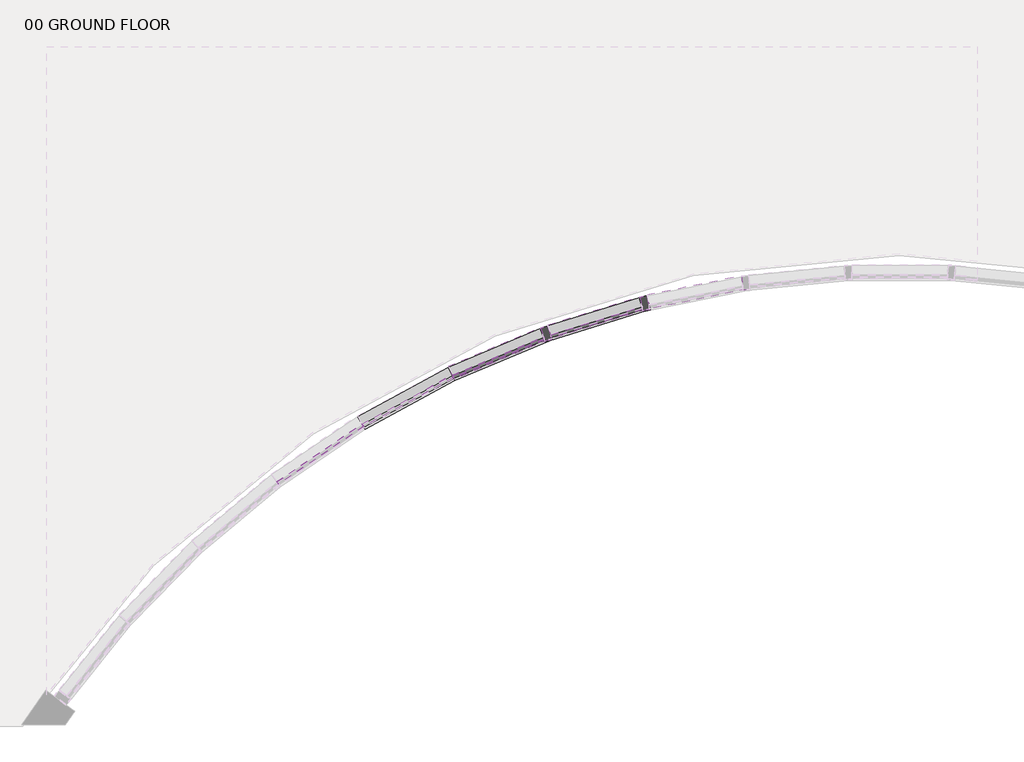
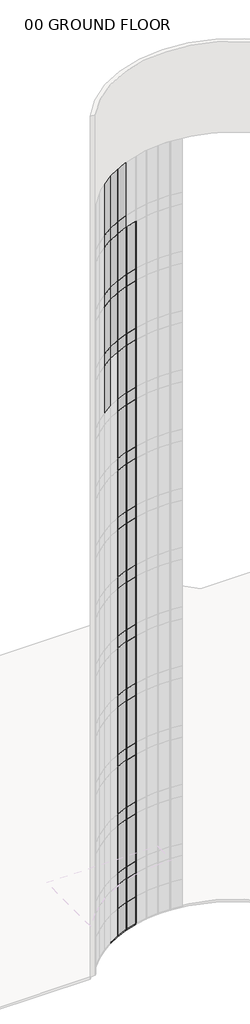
# One storey, part 6 of 33: 63 plates, 52 members.
"""IFC4 building model written with IfcOpenShell, lengths in millimetres."""

from ifc_helpers import new_model, si_unit, origin, place, context, project, spatial, transform, mapped, element, save
from components import member_ab6b85c2, member_a499538e, member_7cbddb58, member_92b69a95, member_bc59259d, member_d60e8053, member_410c6227, member_810865a4, system_panel_su_blue_992d2dbe, system_panel_su_blue_02b3fa8e, system_panel_su_blue_f02faf6b, system_panel_su_blue_aa8bdef1, system_panel_su_blue_144861c6, system_panel_su_blue_e9da5e1a, system_panel_su_blue_a8d80527, system_panel_su_blue_654c3fe2, system_panel_su_blue_7566f74c, system_panel_su_blue_cfd944bc, system_panel_su_blue_e3caad35, system_panel_su_blue_95bb2abf

model = new_model("IFC4")

# Units and contexts
model_context = context("Model", 3, world=origin())
ifc_project = project(units=[si_unit("LENGTHUNIT", "METRE", prefix="MILLI")], contexts=[model_context])

# Site, building, storey
site = spatial("IfcSite", under=ifc_project)
building = spatial("IfcBuilding", under=site)
storey = spatial("IfcBuildingStorey", under=building, Name="00 GROUND FLOOR", Elevation=0.0)

# Members
placement = place(None, origin())
member_shape = member_ab6b85c2(model_context)
element("IfcMember", 1, ObjectType="Rectangular Mullion : 2.5\" x 5\" rectangular", at=placement, inside=storey, context=model_context, shape_type="MappedRepresentation", body=[
    mapped(member_shape, transform((12908.43233, 3818.9388564, 59436.0), x_axis=(0.0, 0.0, 1.0), y_axis=(-0.19774153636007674, 0.980254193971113, 0.0), z_axis=(-0.9802541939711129, -0.19774153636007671, 0.0))),
])
element("IfcMember", 2, ObjectType="Rectangular Mullion : 2.5\" x 5\" rectangular", at=placement, inside=storey, context=model_context, shape_type="MappedRepresentation", body=[
    mapped(member_shape, transform((12052.9998875, 3558.9536304, 59436.0), x_axis=(0.0, 0.0, 1.0), y_axis=(-0.29416346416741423, 0.9557551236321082, 0.0), z_axis=(-0.9557551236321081, -0.2941634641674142, 0.0))),
])
element("IfcMember", 3, ObjectType="Rectangular Mullion : 2.5\" x 5\" rectangular", at=placement, inside=storey, context=model_context, shape_type="MappedRepresentation", body=[
    mapped(member_shape, transform((12846.9640341, 3803.3208726, 0.0), x_axis=(0.0, 0.0, -1.0), y_axis=(-0.2941634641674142, 0.9557551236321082, 0.0), z_axis=(0.9557551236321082, 0.2941634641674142, 0.0))),
])
member_2_shape = member_a499538e(model_context)
element("IfcMember", 4, ObjectType="Rectangular Mullion : 2.5\" x 5\" rectangular", at=placement, inside=storey, context=model_context, shape_type="MappedRepresentation", body=[
    mapped(member_2_shape, transform((11993.3876212, 3537.3052928, 0.0), x_axis=(0.0, 0.0, -1.0), y_axis=(-0.3876739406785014, 0.9217965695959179, 0.0), z_axis=(0.9217965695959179, 0.3876739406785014, 0.0))),
])
member_3_shape = member_7cbddb58(model_context)
element("IfcMember", 5, ObjectType="Rectangular Mullion : 2.5\" x 5\" rectangular", at=placement, inside=storey, context=model_context, shape_type="MappedRepresentation", body=[
    mapped(member_3_shape, transform((12877.3092593, 3812.6605626, 0.0), x_axis=(-0.9692044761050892, -0.2462573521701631, 0.0), y_axis=(-0.2462573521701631, 0.9692044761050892, 0.0), z_axis=(0.0, 0.0, -1.0))),
])
element("IfcMember", 6, ObjectType="Rectangular Mullion : 2.5\" x 5\" rectangular", at=placement, inside=storey, context=model_context, shape_type="MappedRepresentation", body=[
    mapped(member_3_shape, transform((12022.6546623, 3549.6139404, 0.0), x_axis=(-0.9399394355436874, -0.3413412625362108, 0.0), y_axis=(-0.3413412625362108, 0.9399394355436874, 0.0), z_axis=(0.0, 0.0, -1.0))),
])
member_4_shape = member_92b69a95(model_context)
element("IfcMember", 7, ObjectType="Rectangular Mullion : 2.5\" x 5\" rectangular", at=placement, inside=storey, context=model_context, shape_type="MappedRepresentation", body=[
    mapped(member_4_shape, transform((11198.3664568, 3202.9484533, 59436.0), x_axis=(0.0, 0.0, 1.0), y_axis=(-0.38767394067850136, 0.9217965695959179, 0.0), z_axis=(-0.9217965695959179, -0.38767394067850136, 0.0))),
])
member_5_shape = member_bc59259d(model_context)
element("IfcMember", 8, ObjectType="Rectangular Mullion : 2.5\" x 5\" rectangular", at=placement, inside=storey, context=model_context, shape_type="MappedRepresentation", body=[
    mapped(member_5_shape, transform((11198.3664568, 3202.9484533, 0.0), x_axis=(0.0, 0.0, -1.0), y_axis=(-0.4773474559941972, 0.8787146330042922, 0.0), z_axis=(0.8787146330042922, 0.4773474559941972, 0.0))),
])
member_6_shape = member_d60e8053(model_context)
element("IfcMember", 9, ObjectType="Rectangular Mullion : 2.5\" x 5\" rectangular", at=placement, inside=storey, context=model_context, shape_type="MappedRepresentation", body=[
    mapped(member_6_shape, transform((12877.3092593, 3812.6605626, 2133.6), x_axis=(-0.9692044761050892, -0.2462573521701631, 0.0), y_axis=(-0.2462573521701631, 0.9692044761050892, 0.0), z_axis=(0.0, 0.0, -1.0))),
])
element("IfcMember", 10, ObjectType="Rectangular Mullion : 2.5\" x 5\" rectangular", at=placement, inside=storey, context=model_context, shape_type="MappedRepresentation", body=[
    mapped(member_6_shape, transform((12022.6546623, 3549.6139404, 2133.6), x_axis=(-0.9399394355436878, -0.34134126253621, 0.0), y_axis=(-0.34134126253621, 0.9399394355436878, 0.0), z_axis=(0.0, 0.0, -1.0))),
])
member_7_shape = member_410c6227(model_context)
element("IfcMember", 11, ObjectType="Rectangular Mullion : 2.5\" x 5\" rectangular", at=placement, inside=storey, context=model_context, shape_type="MappedRepresentation", body=[
    mapped(member_7_shape, transform((12877.3092593, 3812.6605626, 3962.4), x_axis=(-0.9692044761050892, -0.2462573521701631, 0.0), y_axis=(-0.2462573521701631, 0.9692044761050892, 0.0), z_axis=(0.0, 0.0, -1.0))),
])
element("IfcMember", 12, ObjectType="Rectangular Mullion : 2.5\" x 5\" rectangular", at=placement, inside=storey, context=model_context, shape_type="MappedRepresentation", body=[
    mapped(member_7_shape, transform((12022.6546623, 3549.6139404, 3962.4), x_axis=(-0.939939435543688, -0.3413412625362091, 0.0), y_axis=(-0.3413412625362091, 0.939939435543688, 0.0), z_axis=(0.0, 0.0, -1.0))),
])
element("IfcMember", 13, ObjectType="Rectangular Mullion : 2.5\" x 5\" rectangular", at=placement, inside=storey, context=model_context, shape_type="MappedRepresentation", body=[
    mapped(member_7_shape, transform((12877.3092593, 3812.6605626, 8534.4), x_axis=(-0.9692044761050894, -0.24625735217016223, 0.0), y_axis=(-0.24625735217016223, 0.9692044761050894, 0.0), z_axis=(0.0, 0.0, -1.0))),
])
element("IfcMember", 14, ObjectType="Rectangular Mullion : 2.5\" x 5\" rectangular", at=placement, inside=storey, context=model_context, shape_type="MappedRepresentation", body=[
    mapped(member_7_shape, transform((12022.6546623, 3549.6139404, 8534.4), x_axis=(-0.939939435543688, -0.3413412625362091, 0.0), y_axis=(-0.3413412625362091, 0.939939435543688, 0.0), z_axis=(0.0, 0.0, -1.0))),
])
element("IfcMember", 15, ObjectType="Rectangular Mullion : 2.5\" x 5\" rectangular", at=placement, inside=storey, context=model_context, shape_type="MappedRepresentation", body=[
    mapped(member_7_shape, transform((12877.3092593, 3812.6605626, 13106.4), x_axis=(-0.9692044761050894, -0.24625735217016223, 0.0), y_axis=(-0.24625735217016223, 0.9692044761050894, 0.0), z_axis=(0.0, 0.0, -1.0))),
])
element("IfcMember", 16, ObjectType="Rectangular Mullion : 2.5\" x 5\" rectangular", at=placement, inside=storey, context=model_context, shape_type="MappedRepresentation", body=[
    mapped(member_7_shape, transform((12022.6546623, 3549.6139404, 13106.4), x_axis=(-0.9399394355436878, -0.34134126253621, 0.0), y_axis=(-0.34134126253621, 0.9399394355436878, 0.0), z_axis=(0.0, 0.0, -1.0))),
])
element("IfcMember", 17, ObjectType="Rectangular Mullion : 2.5\" x 5\" rectangular", at=placement, inside=storey, context=model_context, shape_type="MappedRepresentation", body=[
    mapped(member_7_shape, transform((12877.3092593, 3812.6605626, 17678.4), x_axis=(-0.9692044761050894, -0.24625735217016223, 0.0), y_axis=(-0.24625735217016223, 0.9692044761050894, 0.0), z_axis=(0.0, 0.0, -1.0))),
])
element("IfcMember", 18, ObjectType="Rectangular Mullion : 2.5\" x 5\" rectangular", at=placement, inside=storey, context=model_context, shape_type="MappedRepresentation", body=[
    mapped(member_7_shape, transform((12022.6546623, 3549.6139404, 17678.4), x_axis=(-0.9399394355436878, -0.34134126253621, 0.0), y_axis=(-0.34134126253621, 0.9399394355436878, 0.0), z_axis=(0.0, 0.0, -1.0))),
])
element("IfcMember", 19, ObjectType="Rectangular Mullion : 2.5\" x 5\" rectangular", at=placement, inside=storey, context=model_context, shape_type="MappedRepresentation", body=[
    mapped(member_7_shape, transform((12877.3092593, 3812.6605626, 22250.4), x_axis=(-0.9692044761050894, -0.24625735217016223, 0.0), y_axis=(-0.24625735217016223, 0.9692044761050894, 0.0), z_axis=(0.0, 0.0, -1.0))),
])
element("IfcMember", 20, ObjectType="Rectangular Mullion : 2.5\" x 5\" rectangular", at=placement, inside=storey, context=model_context, shape_type="MappedRepresentation", body=[
    mapped(member_7_shape, transform((12022.6546623, 3549.6139404, 22250.4), x_axis=(-0.9399394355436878, -0.34134126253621, 0.0), y_axis=(-0.34134126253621, 0.9399394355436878, 0.0), z_axis=(0.0, 0.0, -1.0))),
])
element("IfcMember", 21, ObjectType="Rectangular Mullion : 2.5\" x 5\" rectangular", at=placement, inside=storey, context=model_context, shape_type="MappedRepresentation", body=[
    mapped(member_7_shape, transform((12877.3092593, 3812.6605626, 26822.4), x_axis=(-0.9692044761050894, -0.24625735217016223, 0.0), y_axis=(-0.24625735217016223, 0.9692044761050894, 0.0), z_axis=(0.0, 0.0, -1.0))),
])
element("IfcMember", 22, ObjectType="Rectangular Mullion : 2.5\" x 5\" rectangular", at=placement, inside=storey, context=model_context, shape_type="MappedRepresentation", body=[
    mapped(member_7_shape, transform((12022.6546623, 3549.6139404, 26822.4), x_axis=(-0.9399394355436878, -0.34134126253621, 0.0), y_axis=(-0.34134126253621, 0.9399394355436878, 0.0), z_axis=(0.0, 0.0, -1.0))),
])
element("IfcMember", 23, ObjectType="Rectangular Mullion : 2.5\" x 5\" rectangular", at=placement, inside=storey, context=model_context, shape_type="MappedRepresentation", body=[
    mapped(member_7_shape, transform((12877.3092593, 3812.6605626, 31394.4), x_axis=(-0.9692044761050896, -0.24625735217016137, 0.0), y_axis=(-0.24625735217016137, 0.9692044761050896, 0.0), z_axis=(0.0, 0.0, -1.0))),
])
element("IfcMember", 24, ObjectType="Rectangular Mullion : 2.5\" x 5\" rectangular", at=placement, inside=storey, context=model_context, shape_type="MappedRepresentation", body=[
    mapped(member_7_shape, transform((12022.6546623, 3549.6139404, 31394.4), x_axis=(-0.9399394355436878, -0.34134126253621, 0.0), y_axis=(-0.34134126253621, 0.9399394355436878, 0.0), z_axis=(0.0, 0.0, -1.0))),
])
element("IfcMember", 25, ObjectType="Rectangular Mullion : 2.5\" x 5\" rectangular", at=placement, inside=storey, context=model_context, shape_type="MappedRepresentation", body=[
    mapped(member_7_shape, transform((12877.3092593, 3812.6605626, 35966.4), x_axis=(-0.9692044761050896, -0.24625735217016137, 0.0), y_axis=(-0.24625735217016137, 0.9692044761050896, 0.0), z_axis=(0.0, 0.0, -1.0))),
])
element("IfcMember", 26, ObjectType="Rectangular Mullion : 2.5\" x 5\" rectangular", at=placement, inside=storey, context=model_context, shape_type="MappedRepresentation", body=[
    mapped(member_7_shape, transform((12022.6546623, 3549.6139404, 35966.4), x_axis=(-0.9399394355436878, -0.34134126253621, 0.0), y_axis=(-0.34134126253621, 0.9399394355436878, 0.0), z_axis=(0.0, 0.0, -1.0))),
])
element("IfcMember", 27, ObjectType="Rectangular Mullion : 2.5\" x 5\" rectangular", at=placement, inside=storey, context=model_context, shape_type="MappedRepresentation", body=[
    mapped(member_7_shape, transform((12877.3092593, 3812.6605626, 40538.4), x_axis=(-0.9692044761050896, -0.24625735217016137, 0.0), y_axis=(-0.24625735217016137, 0.9692044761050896, 0.0), z_axis=(0.0, 0.0, -1.0))),
])
element("IfcMember", 28, ObjectType="Rectangular Mullion : 2.5\" x 5\" rectangular", at=placement, inside=storey, context=model_context, shape_type="MappedRepresentation", body=[
    mapped(member_7_shape, transform((12022.6546623, 3549.6139404, 40538.4), x_axis=(-0.9399394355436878, -0.34134126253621, 0.0), y_axis=(-0.34134126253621, 0.9399394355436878, 0.0), z_axis=(0.0, 0.0, -1.0))),
])
element("IfcMember", 29, ObjectType="Rectangular Mullion : 2.5\" x 5\" rectangular", at=placement, inside=storey, context=model_context, shape_type="MappedRepresentation", body=[
    mapped(member_7_shape, transform((12877.3092593, 3812.6605626, 45110.4), x_axis=(-0.9692044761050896, -0.24625735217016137, 0.0), y_axis=(-0.24625735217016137, 0.9692044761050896, 0.0), z_axis=(0.0, 0.0, -1.0))),
])
element("IfcMember", 30, ObjectType="Rectangular Mullion : 2.5\" x 5\" rectangular", at=placement, inside=storey, context=model_context, shape_type="MappedRepresentation", body=[
    mapped(member_7_shape, transform((12022.6546623, 3549.6139404, 45110.4), x_axis=(-0.9399394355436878, -0.34134126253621, 0.0), y_axis=(-0.34134126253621, 0.9399394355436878, 0.0), z_axis=(0.0, 0.0, -1.0))),
])
element("IfcMember", 31, ObjectType="Rectangular Mullion : 2.5\" x 5\" rectangular", at=placement, inside=storey, context=model_context, shape_type="MappedRepresentation", body=[
    mapped(member_7_shape, transform((12877.3092593, 3812.6605626, 49682.4), x_axis=(-0.9692044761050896, -0.24625735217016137, 0.0), y_axis=(-0.24625735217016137, 0.9692044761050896, 0.0), z_axis=(0.0, 0.0, -1.0))),
])
member_8_shape = member_810865a4(model_context)
element("IfcMember", 32, ObjectType="Rectangular Mullion : 2.5\" x 5\" rectangular", at=placement, inside=storey, context=model_context, shape_type="MappedRepresentation", body=[
    mapped(member_8_shape, transform((12877.3092593, 3812.6605626, 4876.8), x_axis=(-0.9692044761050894, -0.24625735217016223, 0.0), y_axis=(-0.24625735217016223, 0.9692044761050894, 0.0), z_axis=(0.0, 0.0, -1.0))),
])
element("IfcMember", 33, ObjectType="Rectangular Mullion : 2.5\" x 5\" rectangular", at=placement, inside=storey, context=model_context, shape_type="MappedRepresentation", body=[
    mapped(member_8_shape, transform((12022.6546623, 3549.6139404, 4876.8), x_axis=(-0.939939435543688, -0.3413412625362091, 0.0), y_axis=(-0.3413412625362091, 0.939939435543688, 0.0), z_axis=(0.0, 0.0, -1.0))),
])
element("IfcMember", 34, ObjectType="Rectangular Mullion : 2.5\" x 5\" rectangular", at=placement, inside=storey, context=model_context, shape_type="MappedRepresentation", body=[
    mapped(member_8_shape, transform((12877.3092593, 3812.6605626, 9448.8), x_axis=(-0.9692044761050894, -0.24625735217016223, 0.0), y_axis=(-0.24625735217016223, 0.9692044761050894, 0.0), z_axis=(0.0, 0.0, -1.0))),
])
element("IfcMember", 35, ObjectType="Rectangular Mullion : 2.5\" x 5\" rectangular", at=placement, inside=storey, context=model_context, shape_type="MappedRepresentation", body=[
    mapped(member_8_shape, transform((12022.6546623, 3549.6139404, 9448.8), x_axis=(-0.9399394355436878, -0.34134126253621, 0.0), y_axis=(-0.34134126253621, 0.9399394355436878, 0.0), z_axis=(0.0, 0.0, -1.0))),
])
element("IfcMember", 36, ObjectType="Rectangular Mullion : 2.5\" x 5\" rectangular", at=placement, inside=storey, context=model_context, shape_type="MappedRepresentation", body=[
    mapped(member_8_shape, transform((12877.3092593, 3812.6605626, 14020.8), x_axis=(-0.9692044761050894, -0.24625735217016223, 0.0), y_axis=(-0.24625735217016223, 0.9692044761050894, 0.0), z_axis=(0.0, 0.0, -1.0))),
])
element("IfcMember", 37, ObjectType="Rectangular Mullion : 2.5\" x 5\" rectangular", at=placement, inside=storey, context=model_context, shape_type="MappedRepresentation", body=[
    mapped(member_8_shape, transform((12022.6546623, 3549.6139404, 14020.8), x_axis=(-0.9399394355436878, -0.34134126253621, 0.0), y_axis=(-0.34134126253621, 0.9399394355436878, 0.0), z_axis=(0.0, 0.0, -1.0))),
])
element("IfcMember", 38, ObjectType="Rectangular Mullion : 2.5\" x 5\" rectangular", at=placement, inside=storey, context=model_context, shape_type="MappedRepresentation", body=[
    mapped(member_8_shape, transform((12877.3092593, 3812.6605626, 18592.8), x_axis=(-0.9692044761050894, -0.24625735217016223, 0.0), y_axis=(-0.24625735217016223, 0.9692044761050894, 0.0), z_axis=(0.0, 0.0, -1.0))),
])
element("IfcMember", 39, ObjectType="Rectangular Mullion : 2.5\" x 5\" rectangular", at=placement, inside=storey, context=model_context, shape_type="MappedRepresentation", body=[
    mapped(member_8_shape, transform((12022.6546623, 3549.6139404, 18592.8), x_axis=(-0.9399394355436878, -0.34134126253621, 0.0), y_axis=(-0.34134126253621, 0.9399394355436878, 0.0), z_axis=(0.0, 0.0, -1.0))),
])
element("IfcMember", 40, ObjectType="Rectangular Mullion : 2.5\" x 5\" rectangular", at=placement, inside=storey, context=model_context, shape_type="MappedRepresentation", body=[
    mapped(member_8_shape, transform((12877.3092593, 3812.6605626, 23164.8), x_axis=(-0.9692044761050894, -0.24625735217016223, 0.0), y_axis=(-0.24625735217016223, 0.9692044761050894, 0.0), z_axis=(0.0, 0.0, -1.0))),
])
element("IfcMember", 41, ObjectType="Rectangular Mullion : 2.5\" x 5\" rectangular", at=placement, inside=storey, context=model_context, shape_type="MappedRepresentation", body=[
    mapped(member_8_shape, transform((12022.6546623, 3549.6139404, 23164.8), x_axis=(-0.9399394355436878, -0.34134126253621, 0.0), y_axis=(-0.34134126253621, 0.9399394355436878, 0.0), z_axis=(0.0, 0.0, -1.0))),
])
element("IfcMember", 42, ObjectType="Rectangular Mullion : 2.5\" x 5\" rectangular", at=placement, inside=storey, context=model_context, shape_type="MappedRepresentation", body=[
    mapped(member_8_shape, transform((12877.3092593, 3812.6605626, 27736.8), x_axis=(-0.9692044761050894, -0.24625735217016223, 0.0), y_axis=(-0.24625735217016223, 0.9692044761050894, 0.0), z_axis=(0.0, 0.0, -1.0))),
])
element("IfcMember", 43, ObjectType="Rectangular Mullion : 2.5\" x 5\" rectangular", at=placement, inside=storey, context=model_context, shape_type="MappedRepresentation", body=[
    mapped(member_8_shape, transform((12022.6546623, 3549.6139404, 27736.8), x_axis=(-0.9399394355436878, -0.34134126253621, 0.0), y_axis=(-0.34134126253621, 0.9399394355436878, 0.0), z_axis=(0.0, 0.0, -1.0))),
])
element("IfcMember", 44, ObjectType="Rectangular Mullion : 2.5\" x 5\" rectangular", at=placement, inside=storey, context=model_context, shape_type="MappedRepresentation", body=[
    mapped(member_8_shape, transform((12877.3092593, 3812.6605626, 32308.8), x_axis=(-0.9692044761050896, -0.24625735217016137, 0.0), y_axis=(-0.24625735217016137, 0.9692044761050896, 0.0), z_axis=(0.0, 0.0, -1.0))),
])
element("IfcMember", 45, ObjectType="Rectangular Mullion : 2.5\" x 5\" rectangular", at=placement, inside=storey, context=model_context, shape_type="MappedRepresentation", body=[
    mapped(member_8_shape, transform((12022.6546623, 3549.6139404, 32308.8), x_axis=(-0.9399394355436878, -0.34134126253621, 0.0), y_axis=(-0.34134126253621, 0.9399394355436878, 0.0), z_axis=(0.0, 0.0, -1.0))),
])
element("IfcMember", 46, ObjectType="Rectangular Mullion : 2.5\" x 5\" rectangular", at=placement, inside=storey, context=model_context, shape_type="MappedRepresentation", body=[
    mapped(member_8_shape, transform((12877.3092593, 3812.6605626, 36880.8), x_axis=(-0.9692044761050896, -0.24625735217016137, 0.0), y_axis=(-0.24625735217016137, 0.9692044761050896, 0.0), z_axis=(0.0, 0.0, -1.0))),
])
element("IfcMember", 47, ObjectType="Rectangular Mullion : 2.5\" x 5\" rectangular", at=placement, inside=storey, context=model_context, shape_type="MappedRepresentation", body=[
    mapped(member_8_shape, transform((12022.6546623, 3549.6139404, 36880.8), x_axis=(-0.9399394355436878, -0.34134126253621, 0.0), y_axis=(-0.34134126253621, 0.9399394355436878, 0.0), z_axis=(0.0, 0.0, -1.0))),
])
element("IfcMember", 48, ObjectType="Rectangular Mullion : 2.5\" x 5\" rectangular", at=placement, inside=storey, context=model_context, shape_type="MappedRepresentation", body=[
    mapped(member_8_shape, transform((12877.3092593, 3812.6605626, 41452.8), x_axis=(-0.9692044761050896, -0.24625735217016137, 0.0), y_axis=(-0.24625735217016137, 0.9692044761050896, 0.0), z_axis=(0.0, 0.0, -1.0))),
])
element("IfcMember", 49, ObjectType="Rectangular Mullion : 2.5\" x 5\" rectangular", at=placement, inside=storey, context=model_context, shape_type="MappedRepresentation", body=[
    mapped(member_8_shape, transform((12022.6546623, 3549.6139404, 41452.8), x_axis=(-0.9399394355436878, -0.34134126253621, 0.0), y_axis=(-0.34134126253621, 0.9399394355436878, 0.0), z_axis=(0.0, 0.0, -1.0))),
])
element("IfcMember", 50, ObjectType="Rectangular Mullion : 2.5\" x 5\" rectangular", at=placement, inside=storey, context=model_context, shape_type="MappedRepresentation", body=[
    mapped(member_8_shape, transform((12877.3092593, 3812.6605626, 46024.8), x_axis=(-0.9692044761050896, -0.24625735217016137, 0.0), y_axis=(-0.24625735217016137, 0.9692044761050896, 0.0), z_axis=(0.0, 0.0, -1.0))),
])
element("IfcMember", 51, ObjectType="Rectangular Mullion : 2.5\" x 5\" rectangular", at=placement, inside=storey, context=model_context, shape_type="MappedRepresentation", body=[
    mapped(member_8_shape, transform((12022.6546623, 3549.6139404, 46024.8), x_axis=(-0.9399394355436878, -0.34134126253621, 0.0), y_axis=(-0.34134126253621, 0.9399394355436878, 0.0), z_axis=(0.0, 0.0, -1.0))),
])
element("IfcMember", 52, ObjectType="Rectangular Mullion : 2.5\" x 5\" rectangular", at=placement, inside=storey, context=model_context, shape_type="MappedRepresentation", body=[
    mapped(member_8_shape, transform((12877.3092593, 3812.6605626, 50596.8), x_axis=(-0.9692044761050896, -0.24625735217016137, 0.0), y_axis=(-0.24625735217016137, 0.9692044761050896, 0.0), z_axis=(0.0, 0.0, -1.0))),
])

# Plates
system_panel_su_blue_shape = system_panel_su_blue_992d2dbe(model_context)
element("IfcPlate", 53, ObjectType="System Panel : SU_BLUE", at=placement, inside=storey, context=model_context, shape_type="MappedRepresentation", body=[
    mapped(system_panel_su_blue_shape, transform((12449.9819608, 3681.1372515, 63.5), x_axis=(-0.9557551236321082, -0.2941634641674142, 0.0), y_axis=(0.2941634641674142, -0.9557551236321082, 0.0), z_axis=(0.0, 0.0, 1.0))),
])
system_panel_su_blue_2_shape = system_panel_su_blue_02b3fa8e(model_context)
element("IfcPlate", 54, ObjectType="System Panel : SU_BLUE", at=placement, inside=storey, context=model_context, shape_type="MappedRepresentation", body=[
    mapped(system_panel_su_blue_2_shape, transform((11595.877039, 3370.126873, 63.5), x_axis=(-0.9217965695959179, -0.3876739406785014, 0.0), y_axis=(0.3876739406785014, -0.9217965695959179, 0.0), z_axis=(0.0, 0.0, 1.0))),
])
system_panel_su_blue_3_shape = system_panel_su_blue_f02faf6b(model_context)
element("IfcPlate", 55, ObjectType="System Panel : SU_BLUE", at=placement, inside=storey, context=model_context, shape_type="MappedRepresentation", body=[
    mapped(system_panel_su_blue_3_shape, transform((12449.9819608, 3681.1372515, 2133.6), x_axis=(-0.9557551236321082, -0.2941634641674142, 0.0), y_axis=(0.2941634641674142, -0.9557551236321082, 0.0), z_axis=(0.0, 0.0, 1.0))),
])
system_panel_su_blue_4_shape = system_panel_su_blue_aa8bdef1(model_context)
element("IfcPlate", 56, ObjectType="System Panel : SU_BLUE", at=placement, inside=storey, context=model_context, shape_type="MappedRepresentation", body=[
    mapped(system_panel_su_blue_4_shape, transform((11595.877039, 3370.126873, 2133.6), x_axis=(-0.9217965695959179, -0.3876739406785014, 0.0), y_axis=(0.3876739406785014, -0.9217965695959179, 0.0), z_axis=(0.0, 0.0, 1.0))),
])
system_panel_su_blue_5_shape = system_panel_su_blue_144861c6(model_context)
element("IfcPlate", 57, ObjectType="System Panel : SU_BLUE", at=placement, inside=storey, context=model_context, shape_type="MappedRepresentation", body=[
    mapped(system_panel_su_blue_5_shape, transform((12449.9819608, 3681.1372515, 3962.4), x_axis=(-0.9557551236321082, -0.2941634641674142, 0.0), y_axis=(0.2941634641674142, -0.9557551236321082, 0.0), z_axis=(0.0, 0.0, 1.0))),
])
element("IfcPlate", 58, ObjectType="System Panel : SU_BLUE", at=placement, inside=storey, context=model_context, shape_type="MappedRepresentation", body=[
    mapped(system_panel_su_blue_5_shape, transform((12449.9819608, 3681.1372515, 8534.4), x_axis=(-0.9557551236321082, -0.2941634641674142, 0.0), y_axis=(0.2941634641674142, -0.9557551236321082, 0.0), z_axis=(0.0, 0.0, 1.0))),
])
element("IfcPlate", 59, ObjectType="System Panel : SU_BLUE", at=placement, inside=storey, context=model_context, shape_type="MappedRepresentation", body=[
    mapped(system_panel_su_blue_5_shape, transform((12449.9819608, 3681.1372515, 13106.4), x_axis=(-0.9557551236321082, -0.2941634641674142, 0.0), y_axis=(0.2941634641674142, -0.9557551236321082, 0.0), z_axis=(0.0, 0.0, 1.0))),
])
element("IfcPlate", 60, ObjectType="System Panel : SU_BLUE", at=placement, inside=storey, context=model_context, shape_type="MappedRepresentation", body=[
    mapped(system_panel_su_blue_5_shape, transform((12449.9819608, 3681.1372515, 17678.4), x_axis=(-0.9557551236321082, -0.2941634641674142, 0.0), y_axis=(0.2941634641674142, -0.9557551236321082, 0.0), z_axis=(0.0, 0.0, 1.0))),
])
element("IfcPlate", 61, ObjectType="System Panel : SU_BLUE", at=placement, inside=storey, context=model_context, shape_type="MappedRepresentation", body=[
    mapped(system_panel_su_blue_5_shape, transform((12449.9819608, 3681.1372515, 22250.4), x_axis=(-0.9557551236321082, -0.2941634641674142, 0.0), y_axis=(0.2941634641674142, -0.9557551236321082, 0.0), z_axis=(0.0, 0.0, 1.0))),
])
element("IfcPlate", 62, ObjectType="System Panel : SU_BLUE", at=placement, inside=storey, context=model_context, shape_type="MappedRepresentation", body=[
    mapped(system_panel_su_blue_5_shape, transform((12449.9819608, 3681.1372515, 26822.4), x_axis=(-0.9557551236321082, -0.2941634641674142, 0.0), y_axis=(0.2941634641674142, -0.9557551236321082, 0.0), z_axis=(0.0, 0.0, 1.0))),
])
element("IfcPlate", 63, ObjectType="System Panel : SU_BLUE", at=placement, inside=storey, context=model_context, shape_type="MappedRepresentation", body=[
    mapped(system_panel_su_blue_5_shape, transform((12449.9819608, 3681.1372515, 31394.4), x_axis=(-0.9557551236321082, -0.2941634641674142, 0.0), y_axis=(0.2941634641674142, -0.9557551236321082, 0.0), z_axis=(0.0, 0.0, 1.0))),
])
element("IfcPlate", 64, ObjectType="System Panel : SU_BLUE", at=placement, inside=storey, context=model_context, shape_type="MappedRepresentation", body=[
    mapped(system_panel_su_blue_5_shape, transform((12449.9819608, 3681.1372515, 35966.4), x_axis=(-0.9557551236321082, -0.2941634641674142, 0.0), y_axis=(0.2941634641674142, -0.9557551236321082, 0.0), z_axis=(0.0, 0.0, 1.0))),
])
element("IfcPlate", 65, ObjectType="System Panel : SU_BLUE", at=placement, inside=storey, context=model_context, shape_type="MappedRepresentation", body=[
    mapped(system_panel_su_blue_5_shape, transform((12449.9819608, 3681.1372515, 40538.4), x_axis=(-0.9557551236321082, -0.2941634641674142, 0.0), y_axis=(0.2941634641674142, -0.9557551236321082, 0.0), z_axis=(0.0, 0.0, 1.0))),
])
element("IfcPlate", 66, ObjectType="System Panel : SU_BLUE", at=placement, inside=storey, context=model_context, shape_type="MappedRepresentation", body=[
    mapped(system_panel_su_blue_5_shape, transform((12449.9819608, 3681.1372515, 45110.4), x_axis=(-0.9557551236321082, -0.2941634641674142, 0.0), y_axis=(0.2941634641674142, -0.9557551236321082, 0.0), z_axis=(0.0, 0.0, 1.0))),
])
element("IfcPlate", 67, ObjectType="System Panel : SU_BLUE", at=placement, inside=storey, context=model_context, shape_type="MappedRepresentation", body=[
    mapped(system_panel_su_blue_5_shape, transform((12449.9819608, 3681.1372515, 49682.4), x_axis=(-0.9557551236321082, -0.2941634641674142, 0.0), y_axis=(0.2941634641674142, -0.9557551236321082, 0.0), z_axis=(0.0, 0.0, 1.0))),
])
system_panel_su_blue_6_shape = system_panel_su_blue_e9da5e1a(model_context)
element("IfcPlate", 68, ObjectType="System Panel : SU_BLUE", at=placement, inside=storey, context=model_context, shape_type="MappedRepresentation", body=[
    mapped(system_panel_su_blue_6_shape, transform((11595.877039, 3370.126873, 3962.4), x_axis=(-0.9217965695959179, -0.3876739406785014, 0.0), y_axis=(0.3876739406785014, -0.9217965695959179, 0.0), z_axis=(0.0, 0.0, 1.0))),
])
element("IfcPlate", 69, ObjectType="System Panel : SU_BLUE", at=placement, inside=storey, context=model_context, shape_type="MappedRepresentation", body=[
    mapped(system_panel_su_blue_6_shape, transform((11595.877039, 3370.126873, 8534.4), x_axis=(-0.9217965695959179, -0.3876739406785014, 0.0), y_axis=(0.3876739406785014, -0.9217965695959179, 0.0), z_axis=(0.0, 0.0, 1.0))),
])
element("IfcPlate", 70, ObjectType="System Panel : SU_BLUE", at=placement, inside=storey, context=model_context, shape_type="MappedRepresentation", body=[
    mapped(system_panel_su_blue_6_shape, transform((11595.877039, 3370.126873, 13106.4), x_axis=(-0.9217965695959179, -0.3876739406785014, 0.0), y_axis=(0.3876739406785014, -0.9217965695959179, 0.0), z_axis=(0.0, 0.0, 1.0))),
])
element("IfcPlate", 71, ObjectType="System Panel : SU_BLUE", at=placement, inside=storey, context=model_context, shape_type="MappedRepresentation", body=[
    mapped(system_panel_su_blue_6_shape, transform((11595.877039, 3370.126873, 17678.4), x_axis=(-0.9217965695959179, -0.3876739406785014, 0.0), y_axis=(0.3876739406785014, -0.9217965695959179, 0.0), z_axis=(0.0, 0.0, 1.0))),
])
element("IfcPlate", 72, ObjectType="System Panel : SU_BLUE", at=placement, inside=storey, context=model_context, shape_type="MappedRepresentation", body=[
    mapped(system_panel_su_blue_6_shape, transform((11595.877039, 3370.126873, 22250.4), x_axis=(-0.9217965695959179, -0.3876739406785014, 0.0), y_axis=(0.3876739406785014, -0.9217965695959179, 0.0), z_axis=(0.0, 0.0, 1.0))),
])
element("IfcPlate", 73, ObjectType="System Panel : SU_BLUE", at=placement, inside=storey, context=model_context, shape_type="MappedRepresentation", body=[
    mapped(system_panel_su_blue_6_shape, transform((11595.877039, 3370.126873, 26822.4), x_axis=(-0.9217965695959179, -0.3876739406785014, 0.0), y_axis=(0.3876739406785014, -0.9217965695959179, 0.0), z_axis=(0.0, 0.0, 1.0))),
])
element("IfcPlate", 74, ObjectType="System Panel : SU_BLUE", at=placement, inside=storey, context=model_context, shape_type="MappedRepresentation", body=[
    mapped(system_panel_su_blue_6_shape, transform((11595.877039, 3370.126873, 31394.4), x_axis=(-0.9217965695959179, -0.3876739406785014, 0.0), y_axis=(0.3876739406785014, -0.9217965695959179, 0.0), z_axis=(0.0, 0.0, 1.0))),
])
element("IfcPlate", 75, ObjectType="System Panel : SU_BLUE", at=placement, inside=storey, context=model_context, shape_type="MappedRepresentation", body=[
    mapped(system_panel_su_blue_6_shape, transform((11595.877039, 3370.126873, 35966.4), x_axis=(-0.9217965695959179, -0.3876739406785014, 0.0), y_axis=(0.3876739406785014, -0.9217965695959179, 0.0), z_axis=(0.0, 0.0, 1.0))),
])
element("IfcPlate", 76, ObjectType="System Panel : SU_BLUE", at=placement, inside=storey, context=model_context, shape_type="MappedRepresentation", body=[
    mapped(system_panel_su_blue_6_shape, transform((11595.877039, 3370.126873, 40538.4), x_axis=(-0.9217965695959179, -0.3876739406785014, 0.0), y_axis=(0.3876739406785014, -0.9217965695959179, 0.0), z_axis=(0.0, 0.0, 1.0))),
])
element("IfcPlate", 77, ObjectType="System Panel : SU_BLUE", at=placement, inside=storey, context=model_context, shape_type="MappedRepresentation", body=[
    mapped(system_panel_su_blue_6_shape, transform((11595.877039, 3370.126873, 45110.4), x_axis=(-0.9217965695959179, -0.3876739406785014, 0.0), y_axis=(0.3876739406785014, -0.9217965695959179, 0.0), z_axis=(0.0, 0.0, 1.0))),
])
element("IfcPlate", 78, ObjectType="System Panel : SU_BLUE", at=placement, inside=storey, context=model_context, shape_type="MappedRepresentation", body=[
    mapped(system_panel_su_blue_6_shape, transform((11595.877039, 3370.126873, 49682.4), x_axis=(-0.9217965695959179, -0.3876739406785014, 0.0), y_axis=(0.3876739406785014, -0.9217965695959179, 0.0), z_axis=(0.0, 0.0, 1.0))),
])
element("IfcPlate", 79, ObjectType="System Panel : SU_BLUE", at=placement, inside=storey, context=model_context, shape_type="MappedRepresentation", body=[
    mapped(system_panel_su_blue_6_shape, transform((11595.877039, 3370.126873, 54254.4), x_axis=(-0.9217965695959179, -0.3876739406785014, 0.0), y_axis=(0.3876739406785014, -0.9217965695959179, 0.0), z_axis=(0.0, 0.0, 1.0))),
])
system_panel_su_blue_7_shape = system_panel_su_blue_a8d80527(model_context)
element("IfcPlate", 80, ObjectType="System Panel : SU_BLUE", at=placement, inside=storey, context=model_context, shape_type="MappedRepresentation", body=[
    mapped(system_panel_su_blue_7_shape, transform((10805.4847018, 2989.5218194, 45110.4), x_axis=(-0.8787146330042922, -0.4773474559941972, 0.0), y_axis=(0.4773474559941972, -0.8787146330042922, 0.0), z_axis=(0.0, 0.0, 1.0))),
])
element("IfcPlate", 81, ObjectType="System Panel : SU_BLUE", at=placement, inside=storey, context=model_context, shape_type="MappedRepresentation", body=[
    mapped(system_panel_su_blue_7_shape, transform((10042.8720447, 2524.6870286, 45110.4), x_axis=(-0.8269357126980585, -0.5622964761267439, 0.0), y_axis=(0.5622964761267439, -0.8269357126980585, 0.0), z_axis=(0.0, 0.0, 1.0))),
])
element("IfcPlate", 82, ObjectType="System Panel : SU_BLUE", at=placement, inside=storey, context=model_context, shape_type="MappedRepresentation", body=[
    mapped(system_panel_su_blue_7_shape, transform((10805.4847018, 2989.5218194, 49682.4), x_axis=(-0.8787146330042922, -0.4773474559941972, 0.0), y_axis=(0.4773474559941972, -0.8787146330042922, 0.0), z_axis=(0.0, 0.0, 1.0))),
])
element("IfcPlate", 83, ObjectType="System Panel : SU_BLUE", at=placement, inside=storey, context=model_context, shape_type="MappedRepresentation", body=[
    mapped(system_panel_su_blue_7_shape, transform((10042.8720447, 2524.6870286, 49682.4), x_axis=(-0.8269357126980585, -0.5622964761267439, 0.0), y_axis=(0.5622964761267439, -0.8269357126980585, 0.0), z_axis=(0.0, 0.0, 1.0))),
])
element("IfcPlate", 84, ObjectType="System Panel : SU_BLUE", at=placement, inside=storey, context=model_context, shape_type="MappedRepresentation", body=[
    mapped(system_panel_su_blue_7_shape, transform((10805.4847018, 2989.5218194, 54254.4), x_axis=(-0.8787146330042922, -0.4773474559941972, 0.0), y_axis=(0.4773474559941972, -0.8787146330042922, 0.0), z_axis=(0.0, 0.0, 1.0))),
])
element("IfcPlate", 85, ObjectType="System Panel : SU_BLUE", at=placement, inside=storey, context=model_context, shape_type="MappedRepresentation", body=[
    mapped(system_panel_su_blue_7_shape, transform((10042.8720447, 2524.6870286, 54254.4), x_axis=(-0.8269357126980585, -0.5622964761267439, 0.0), y_axis=(0.5622964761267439, -0.8269357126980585, 0.0), z_axis=(0.0, 0.0, 1.0))),
])
system_panel_su_blue_8_shape = system_panel_su_blue_654c3fe2(model_context)
element("IfcPlate", 86, ObjectType="System Panel : SU_BLUE", at=placement, inside=storey, context=model_context, shape_type="MappedRepresentation", body=[
    mapped(system_panel_su_blue_8_shape, transform((12449.9819608, 3681.1372515, 4876.8), x_axis=(-0.9557551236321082, -0.2941634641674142, 0.0), y_axis=(0.2941634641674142, -0.9557551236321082, 0.0), z_axis=(0.0, 0.0, 1.0))),
])
element("IfcPlate", 87, ObjectType="System Panel : SU_BLUE", at=placement, inside=storey, context=model_context, shape_type="MappedRepresentation", body=[
    mapped(system_panel_su_blue_8_shape, transform((12449.9819608, 3681.1372515, 9448.8), x_axis=(-0.9557551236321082, -0.2941634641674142, 0.0), y_axis=(0.2941634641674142, -0.9557551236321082, 0.0), z_axis=(0.0, 0.0, 1.0))),
])
element("IfcPlate", 88, ObjectType="System Panel : SU_BLUE", at=placement, inside=storey, context=model_context, shape_type="MappedRepresentation", body=[
    mapped(system_panel_su_blue_8_shape, transform((12449.9819608, 3681.1372515, 14020.8), x_axis=(-0.9557551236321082, -0.2941634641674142, 0.0), y_axis=(0.2941634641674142, -0.9557551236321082, 0.0), z_axis=(0.0, 0.0, 1.0))),
])
element("IfcPlate", 89, ObjectType="System Panel : SU_BLUE", at=placement, inside=storey, context=model_context, shape_type="MappedRepresentation", body=[
    mapped(system_panel_su_blue_8_shape, transform((12449.9819608, 3681.1372515, 18592.8), x_axis=(-0.9557551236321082, -0.2941634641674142, 0.0), y_axis=(0.2941634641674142, -0.9557551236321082, 0.0), z_axis=(0.0, 0.0, 1.0))),
])
element("IfcPlate", 90, ObjectType="System Panel : SU_BLUE", at=placement, inside=storey, context=model_context, shape_type="MappedRepresentation", body=[
    mapped(system_panel_su_blue_8_shape, transform((12449.9819608, 3681.1372515, 23164.8), x_axis=(-0.9557551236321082, -0.2941634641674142, 0.0), y_axis=(0.2941634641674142, -0.9557551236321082, 0.0), z_axis=(0.0, 0.0, 1.0))),
])
element("IfcPlate", 91, ObjectType="System Panel : SU_BLUE", at=placement, inside=storey, context=model_context, shape_type="MappedRepresentation", body=[
    mapped(system_panel_su_blue_8_shape, transform((12449.9819608, 3681.1372515, 27736.8), x_axis=(-0.9557551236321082, -0.2941634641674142, 0.0), y_axis=(0.2941634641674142, -0.9557551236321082, 0.0), z_axis=(0.0, 0.0, 1.0))),
])
element("IfcPlate", 92, ObjectType="System Panel : SU_BLUE", at=placement, inside=storey, context=model_context, shape_type="MappedRepresentation", body=[
    mapped(system_panel_su_blue_8_shape, transform((12449.9819608, 3681.1372515, 32308.8), x_axis=(-0.9557551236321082, -0.2941634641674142, 0.0), y_axis=(0.2941634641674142, -0.9557551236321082, 0.0), z_axis=(0.0, 0.0, 1.0))),
])
element("IfcPlate", 93, ObjectType="System Panel : SU_BLUE", at=placement, inside=storey, context=model_context, shape_type="MappedRepresentation", body=[
    mapped(system_panel_su_blue_8_shape, transform((12449.9819608, 3681.1372515, 36880.8), x_axis=(-0.9557551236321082, -0.2941634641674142, 0.0), y_axis=(0.2941634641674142, -0.9557551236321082, 0.0), z_axis=(0.0, 0.0, 1.0))),
])
element("IfcPlate", 94, ObjectType="System Panel : SU_BLUE", at=placement, inside=storey, context=model_context, shape_type="MappedRepresentation", body=[
    mapped(system_panel_su_blue_8_shape, transform((12449.9819608, 3681.1372515, 41452.8), x_axis=(-0.9557551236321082, -0.2941634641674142, 0.0), y_axis=(0.2941634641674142, -0.9557551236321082, 0.0), z_axis=(0.0, 0.0, 1.0))),
])
element("IfcPlate", 95, ObjectType="System Panel : SU_BLUE", at=placement, inside=storey, context=model_context, shape_type="MappedRepresentation", body=[
    mapped(system_panel_su_blue_8_shape, transform((12449.9819608, 3681.1372515, 46024.8), x_axis=(-0.9557551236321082, -0.2941634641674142, 0.0), y_axis=(0.2941634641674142, -0.9557551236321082, 0.0), z_axis=(0.0, 0.0, 1.0))),
])
element("IfcPlate", 96, ObjectType="System Panel : SU_BLUE", at=placement, inside=storey, context=model_context, shape_type="MappedRepresentation", body=[
    mapped(system_panel_su_blue_8_shape, transform((12449.9819608, 3681.1372515, 50596.8), x_axis=(-0.9557551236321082, -0.2941634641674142, 0.0), y_axis=(0.2941634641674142, -0.9557551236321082, 0.0), z_axis=(0.0, 0.0, 1.0))),
])
system_panel_su_blue_9_shape = system_panel_su_blue_7566f74c(model_context)
element("IfcPlate", 97, ObjectType="System Panel : SU_BLUE", at=placement, inside=storey, context=model_context, shape_type="MappedRepresentation", body=[
    mapped(system_panel_su_blue_9_shape, transform((11595.877039, 3370.126873, 4876.8), x_axis=(-0.9217965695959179, -0.3876739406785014, 0.0), y_axis=(0.3876739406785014, -0.9217965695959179, 0.0), z_axis=(0.0, 0.0, 1.0))),
])
element("IfcPlate", 98, ObjectType="System Panel : SU_BLUE", at=placement, inside=storey, context=model_context, shape_type="MappedRepresentation", body=[
    mapped(system_panel_su_blue_9_shape, transform((11595.877039, 3370.126873, 9448.8), x_axis=(-0.9217965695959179, -0.3876739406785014, 0.0), y_axis=(0.3876739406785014, -0.9217965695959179, 0.0), z_axis=(0.0, 0.0, 1.0))),
])
element("IfcPlate", 99, ObjectType="System Panel : SU_BLUE", at=placement, inside=storey, context=model_context, shape_type="MappedRepresentation", body=[
    mapped(system_panel_su_blue_9_shape, transform((11595.877039, 3370.126873, 14020.8), x_axis=(-0.9217965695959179, -0.3876739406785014, 0.0), y_axis=(0.3876739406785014, -0.9217965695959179, 0.0), z_axis=(0.0, 0.0, 1.0))),
])
element("IfcPlate", 100, ObjectType="System Panel : SU_BLUE", at=placement, inside=storey, context=model_context, shape_type="MappedRepresentation", body=[
    mapped(system_panel_su_blue_9_shape, transform((11595.877039, 3370.126873, 18592.8), x_axis=(-0.9217965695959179, -0.3876739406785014, 0.0), y_axis=(0.3876739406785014, -0.9217965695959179, 0.0), z_axis=(0.0, 0.0, 1.0))),
])
element("IfcPlate", 101, ObjectType="System Panel : SU_BLUE", at=placement, inside=storey, context=model_context, shape_type="MappedRepresentation", body=[
    mapped(system_panel_su_blue_9_shape, transform((11595.877039, 3370.126873, 23164.8), x_axis=(-0.9217965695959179, -0.3876739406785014, 0.0), y_axis=(0.3876739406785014, -0.9217965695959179, 0.0), z_axis=(0.0, 0.0, 1.0))),
])
element("IfcPlate", 102, ObjectType="System Panel : SU_BLUE", at=placement, inside=storey, context=model_context, shape_type="MappedRepresentation", body=[
    mapped(system_panel_su_blue_9_shape, transform((11595.877039, 3370.126873, 27736.8), x_axis=(-0.9217965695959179, -0.3876739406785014, 0.0), y_axis=(0.3876739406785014, -0.9217965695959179, 0.0), z_axis=(0.0, 0.0, 1.0))),
])
element("IfcPlate", 103, ObjectType="System Panel : SU_BLUE", at=placement, inside=storey, context=model_context, shape_type="MappedRepresentation", body=[
    mapped(system_panel_su_blue_9_shape, transform((11595.877039, 3370.126873, 32308.8), x_axis=(-0.9217965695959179, -0.3876739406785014, 0.0), y_axis=(0.3876739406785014, -0.9217965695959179, 0.0), z_axis=(0.0, 0.0, 1.0))),
])
element("IfcPlate", 104, ObjectType="System Panel : SU_BLUE", at=placement, inside=storey, context=model_context, shape_type="MappedRepresentation", body=[
    mapped(system_panel_su_blue_9_shape, transform((11595.877039, 3370.126873, 36880.8), x_axis=(-0.9217965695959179, -0.3876739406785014, 0.0), y_axis=(0.3876739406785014, -0.9217965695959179, 0.0), z_axis=(0.0, 0.0, 1.0))),
])
element("IfcPlate", 105, ObjectType="System Panel : SU_BLUE", at=placement, inside=storey, context=model_context, shape_type="MappedRepresentation", body=[
    mapped(system_panel_su_blue_9_shape, transform((11595.877039, 3370.126873, 41452.8), x_axis=(-0.9217965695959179, -0.3876739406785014, 0.0), y_axis=(0.3876739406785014, -0.9217965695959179, 0.0), z_axis=(0.0, 0.0, 1.0))),
])
element("IfcPlate", 106, ObjectType="System Panel : SU_BLUE", at=placement, inside=storey, context=model_context, shape_type="MappedRepresentation", body=[
    mapped(system_panel_su_blue_9_shape, transform((11595.877039, 3370.126873, 46024.8), x_axis=(-0.9217965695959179, -0.3876739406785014, 0.0), y_axis=(0.3876739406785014, -0.9217965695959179, 0.0), z_axis=(0.0, 0.0, 1.0))),
])
element("IfcPlate", 107, ObjectType="System Panel : SU_BLUE", at=placement, inside=storey, context=model_context, shape_type="MappedRepresentation", body=[
    mapped(system_panel_su_blue_9_shape, transform((11595.877039, 3370.126873, 50596.8), x_axis=(-0.9217965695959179, -0.3876739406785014, 0.0), y_axis=(0.3876739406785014, -0.9217965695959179, 0.0), z_axis=(0.0, 0.0, 1.0))),
])
system_panel_su_blue_10_shape = system_panel_su_blue_cfd944bc(model_context)
element("IfcPlate", 108, ObjectType="System Panel : SU_BLUE", at=placement, inside=storey, context=model_context, shape_type="MappedRepresentation", body=[
    mapped(system_panel_su_blue_10_shape, transform((10042.8720447, 2524.6870286, 41452.8), x_axis=(-0.8269357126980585, -0.5622964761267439, 0.0), y_axis=(0.5622964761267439, -0.8269357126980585, 0.0), z_axis=(0.0, 0.0, 1.0))),
])
element("IfcPlate", 109, ObjectType="System Panel : SU_BLUE", at=placement, inside=storey, context=model_context, shape_type="MappedRepresentation", body=[
    mapped(system_panel_su_blue_10_shape, transform((10805.4847018, 2989.5218194, 46024.8), x_axis=(-0.8787146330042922, -0.4773474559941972, 0.0), y_axis=(0.4773474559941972, -0.8787146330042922, 0.0), z_axis=(0.0, 0.0, 1.0))),
])
element("IfcPlate", 110, ObjectType="System Panel : SU_BLUE", at=placement, inside=storey, context=model_context, shape_type="MappedRepresentation", body=[
    mapped(system_panel_su_blue_10_shape, transform((10042.8720447, 2524.6870286, 46024.8), x_axis=(-0.8269357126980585, -0.5622964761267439, 0.0), y_axis=(0.5622964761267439, -0.8269357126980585, 0.0), z_axis=(0.0, 0.0, 1.0))),
])
element("IfcPlate", 111, ObjectType="System Panel : SU_BLUE", at=placement, inside=storey, context=model_context, shape_type="MappedRepresentation", body=[
    mapped(system_panel_su_blue_10_shape, transform((10805.4847018, 2989.5218194, 50596.8), x_axis=(-0.8787146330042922, -0.4773474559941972, 0.0), y_axis=(0.4773474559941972, -0.8787146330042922, 0.0), z_axis=(0.0, 0.0, 1.0))),
])
element("IfcPlate", 112, ObjectType="System Panel : SU_BLUE", at=placement, inside=storey, context=model_context, shape_type="MappedRepresentation", body=[
    mapped(system_panel_su_blue_10_shape, transform((10042.8720447, 2524.6870286, 50596.8), x_axis=(-0.8269357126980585, -0.5622964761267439, 0.0), y_axis=(0.5622964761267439, -0.8269357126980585, 0.0), z_axis=(0.0, 0.0, 1.0))),
])
system_panel_su_blue_11_shape = system_panel_su_blue_e3caad35(model_context)
element("IfcPlate", 113, ObjectType="System Panel : SU_BLUE", at=placement, inside=storey, context=model_context, shape_type="MappedRepresentation", body=[
    mapped(system_panel_su_blue_11_shape, transform((11595.877039, 3370.126873, 55168.8), x_axis=(-0.9217965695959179, -0.3876739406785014, 0.0), y_axis=(0.3876739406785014, -0.9217965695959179, 0.0), z_axis=(0.0, 0.0, 1.0))),
])
system_panel_su_blue_12_shape = system_panel_su_blue_95bb2abf(model_context)
element("IfcPlate", 114, ObjectType="System Panel : SU_BLUE", at=placement, inside=storey, context=model_context, shape_type="MappedRepresentation", body=[
    mapped(system_panel_su_blue_12_shape, transform((10805.4847018, 2989.5218194, 55168.8), x_axis=(-0.8787146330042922, -0.4773474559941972, 0.0), y_axis=(0.4773474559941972, -0.8787146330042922, 0.0), z_axis=(0.0, 0.0, 1.0))),
])
element("IfcPlate", 115, ObjectType="System Panel : SU_BLUE", at=placement, inside=storey, context=model_context, shape_type="MappedRepresentation", body=[
    mapped(system_panel_su_blue_12_shape, transform((10042.8720447, 2524.6870286, 55168.8), x_axis=(-0.8269357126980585, -0.5622964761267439, 0.0), y_axis=(0.5622964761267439, -0.8269357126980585, 0.0), z_axis=(0.0, 0.0, 1.0))),
])

save(model, "model.ifc")
